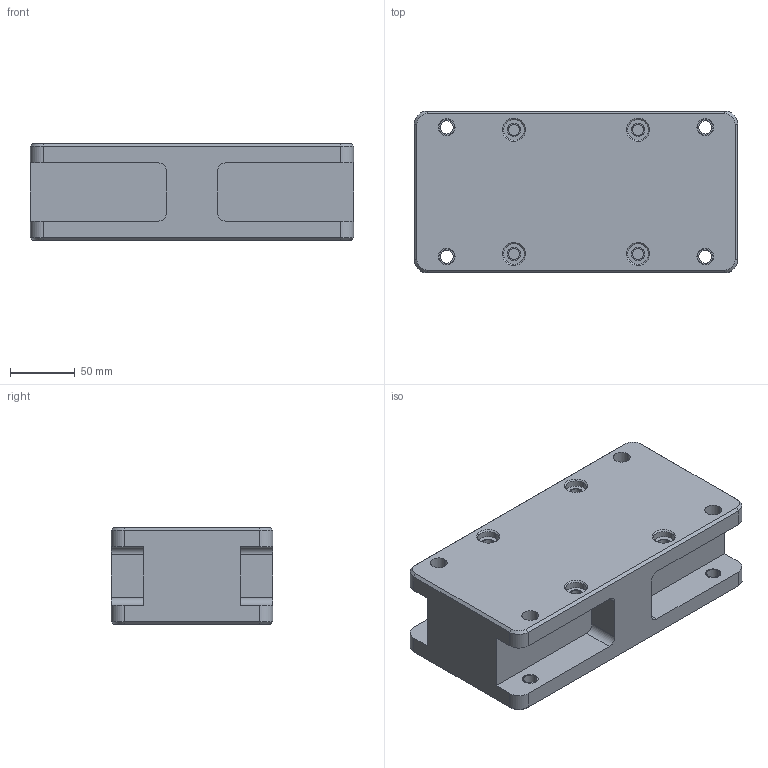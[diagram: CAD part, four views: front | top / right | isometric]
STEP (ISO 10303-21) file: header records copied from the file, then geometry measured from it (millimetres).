
FILE_DESCRIPTION((''),'2;1');
FILE_NAME('FG_VC_ACCES_SC015NP001','2026-03-06T12:21:52',('Admin'),(''),'CREO PARAMETRIC BY PTC INC, 2025010','CREO PARAMETRIC BY PTC INC, 2025010','');
FILE_SCHEMA(('CONFIG_CONTROL_DESIGN'));
Length unit declared in the file: millimetre
Products named in the file (1): FG_VC_ACCES_SC015NP001
Bounding box: 250 x 125 x 75 mm (x, y, z)
Volume: 1839148.2 mm3; surface area: 150554.1 mm2
Topology: 1 solids, 14 shells, 158 faces, 408 edges, 259 vertices
Faces by surface type: cylinder 90, plane 42, cone 26
Entity records: 4872 total; most frequent: DIRECTION 922, CARTESIAN_POINT 816, ORIENTED_EDGE 744, EDGE_CURVE 398, AXIS2_PLACEMENT_3D 365, VERTEX_POINT 259, CIRCLE 206, EDGE_LOOP 199
